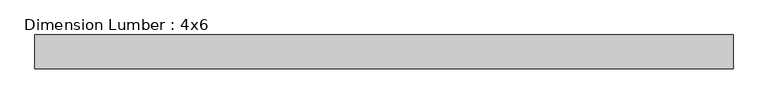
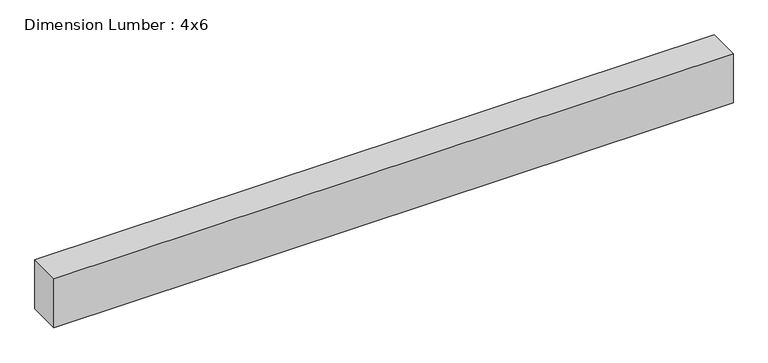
"""IFC4 building model written with IfcOpenShell, lengths in millimetres: beam geometry, Dimension Lumber : 4x6."""

from ifc_helpers import new_model, si_unit, frame, origin, place, context, project, spatial, polyline, outline, extrude, source, transform, mapped, element, save


def dimension_lumber_4x6_c61ffa68(model_context):
    return source(origin(), model_context, "Body", "SweptSolid", [
        extrude(outline(polyline([(914.4, 44.45), (914.4, -44.45), (-914.4, -44.45), (-914.4, 44.45), (914.4, 44.45)])), frame((0.0, 0.0, -69.85), z_axis=(0.0, 0.0, 1.0), x_axis=(1.0, 0.0, 0.0)), (0.0, 0.0, 1.0), 139.7),
    ])


if __name__ == "__main__":
    model = new_model("IFC4")
    model_context = context("Model", 3, world=origin())
    ifc_project = project(units=[si_unit("LENGTHUNIT", "METRE", prefix="MILLI")], contexts=[model_context])
    site = spatial("IfcSite", under=ifc_project)
    building = spatial("IfcBuilding", under=site)
    placement = place(None, origin())
    dimension_lumber_4x6_shape = dimension_lumber_4x6_c61ffa68(model_context)
    element("IfcBeam", 1, ObjectType="Dimension Lumber : 4x6", at=placement, inside=building, context=model_context, shape_type="MappedRepresentation", body=[
        mapped(dimension_lumber_4x6_shape, transform((0.0, 0.0, 0.0), x_axis=(1.0, 0.0, 0.0), y_axis=(0.0, 1.0, 0.0), z_axis=(0.0, 0.0, 1.0))),
    ])
    save(model, "model.ifc")
